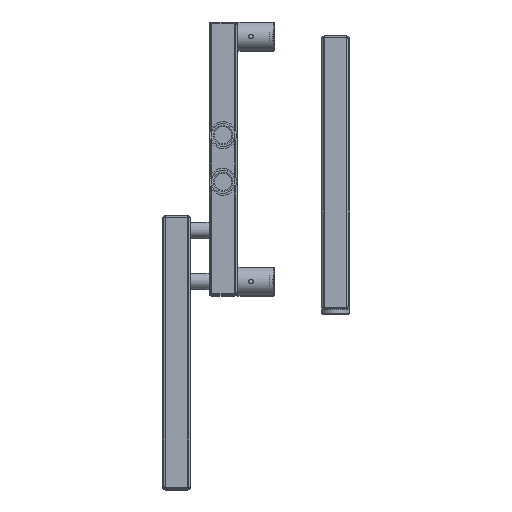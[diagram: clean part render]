
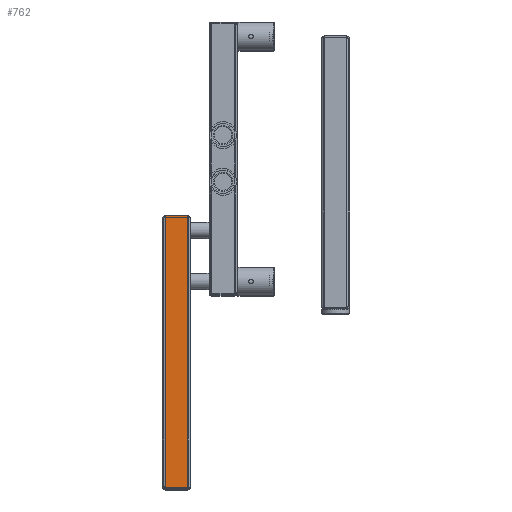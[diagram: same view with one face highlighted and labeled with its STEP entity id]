
A CAD part, top view. The second image highlights one B-rep face of the part: STEP entity #762.
In plain terms, the highlighted planar face has unit normal (0, 0, 1) as drawn and (0, -1, 0) by its records, which use the part's own axes.
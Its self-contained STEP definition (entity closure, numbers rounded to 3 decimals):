
#762 = ADVANCED_FACE( '', ( #1640 ), #1641, .T. );
#1640 = FACE_OUTER_BOUND( '', #2871, .T. );
#1641 = PLANE( '', #2872 );
#2871 = EDGE_LOOP( '', ( #4554, #4555, #4556, #4557 ) );
#2872 = AXIS2_PLACEMENT_3D( '', #4558, #4559, #4560 );
#4554 = ORIENTED_EDGE( '', *, *, #6901, .T. );
#4555 = ORIENTED_EDGE( '', *, *, #6902, .T. );
#4556 = ORIENTED_EDGE( '', *, *, #6903, .F. );
#4557 = ORIENTED_EDGE( '', *, *, #6904, .T. );
#4558 = CARTESIAN_POINT( '', ( 15., -15., 292.5 ) );
#4559 = DIRECTION( '', ( 0., -1., 0. ) );
#4560 = DIRECTION( '', ( 1., 0., 0. ) );
#6901 = EDGE_CURVE( '', #8243, #8244, #8245, .T. );
#6902 = EDGE_CURVE( '', #8244, #8246, #8247, .T. );
#6903 = EDGE_CURVE( '', #8248, #8246, #8249, .T. );
#6904 = EDGE_CURVE( '', #8248, #8243, #8250, .F. );
#8243 = VERTEX_POINT( '', #10038 );
#8244 = VERTEX_POINT( '', #10039 );
#8245 = LINE( '', #10040, #10041 );
#8246 = VERTEX_POINT( '', #10042 );
#8247 = LINE( '', #10043, #10044 );
#8248 = VERTEX_POINT( '', #10045 );
#8249 = LINE( '', #10046, #10047 );
#8250 = LINE( '', #10048, #10049 );
#10038 = CARTESIAN_POINT( '', ( 12., -15., 292.5 ) );
#10039 = CARTESIAN_POINT( '', ( -12., -15., 292.5 ) );
#10040 = CARTESIAN_POINT( '', ( 15., -15., 292.5 ) );
#10041 = VECTOR( '', #11789, 1000. );
#10042 = CARTESIAN_POINT( '', ( -12., -15., 0. ) );
#10043 = CARTESIAN_POINT( '', ( -12., -15., 292.5 ) );
#10044 = VECTOR( '', #11790, 1000. );
#10045 = CARTESIAN_POINT( '', ( 12., -15., 0. ) );
#10046 = CARTESIAN_POINT( '', ( 15., -15., 0. ) );
#10047 = VECTOR( '', #11791, 1000. );
#10048 = CARTESIAN_POINT( '', ( 12., -15., 292.5 ) );
#10049 = VECTOR( '', #11792, 1000. );
#11789 = DIRECTION( '', ( -1., 0., 0. ) );
#11790 = DIRECTION( '', ( 0., 0., -1. ) );
#11791 = DIRECTION( '', ( -1., 0., 0. ) );
#11792 = DIRECTION( '', ( 0., 0., -1. ) );
